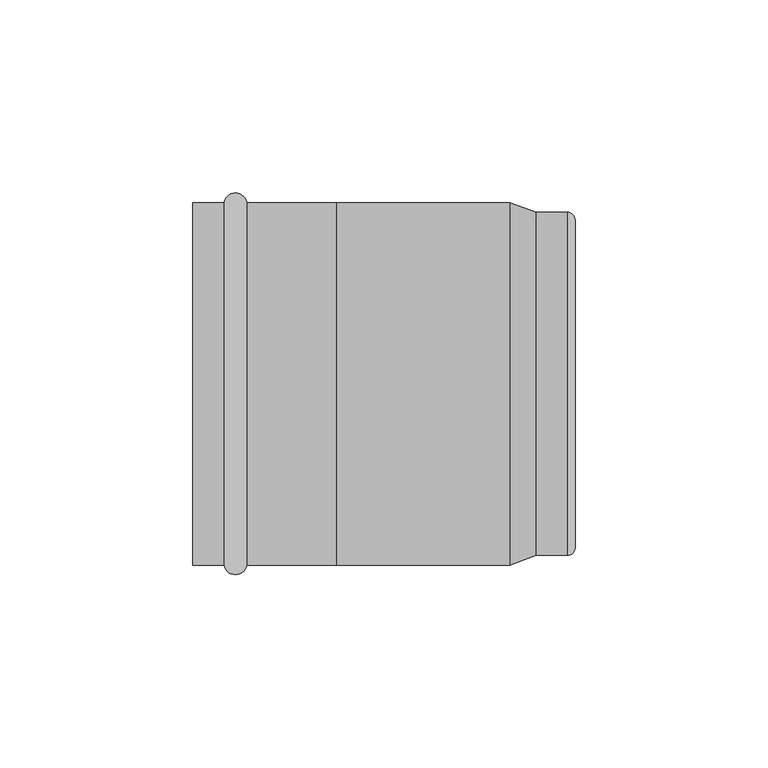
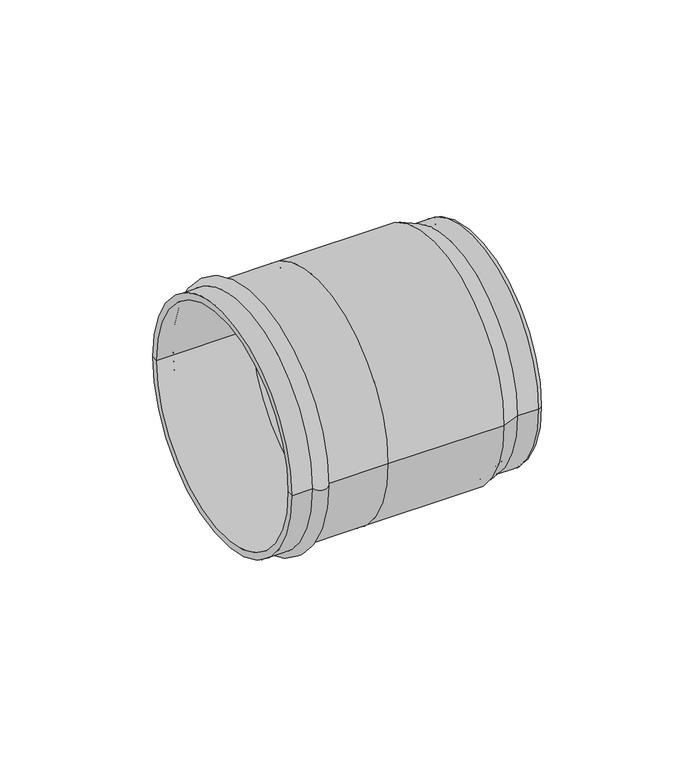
"""IFC4 building model written with IfcOpenShell, lengths in millimetres: pipe fitting geometry, VALTEC_VTi.961.I_Заглушка_нержавеющая : VTi.961.I."""

import ifcopenshell
import ifcopenshell.guid

model = None  # the IFC model being written
_history = None  # IfcOwnerHistory: only IFC2X3 demands one
_inside = {}  # id of a spatial element -> (the spatial element, [elements in it])
_under = {}  # id of a project, library or spatial element -> (it, [spatial elements below it])
_declared = {}  # id of a project -> (the project, [libraries it declares])
_typed = {}  # id of a type object -> (the type object, [elements of that type])
_made_of = {}  # id of a material, layer set ... -> (it, [elements and type objects made of it])


def new_model(schema):
    """Start an empty IFC model of exactly this schema.

    Asked for "IFC4X3", IfcOpenShell would pick the latest addendum, in which some entities
    have other attributes; the version numbers below select the first issue.
    IFC2X3 requires an IfcOwnerHistory on every rooted entity: one is made here for all.
    """
    global model, _history
    if schema == "IFC4X3":
        model = ifcopenshell.file(schema_version=(4, 3, 0, 0))
    else:
        model = ifcopenshell.file(schema=schema)
    _inside.clear()
    _under.clear()
    _declared.clear()
    _typed.clear()
    _made_of.clear()
    _history = None
    if model.schema == "IFC2X3":
        org = make("IfcOrganization", Name="unknown")
        user = make(
            "IfcPersonAndOrganization",
            ThePerson=make("IfcPerson", FamilyName="unknown"),
            TheOrganization=org,
        )
        app = make(
            "IfcApplication",
            ApplicationDeveloper=org,
            Version="unknown",
            ApplicationFullName="unknown",
            ApplicationIdentifier="unknown",
        )
        _history = make(
            "IfcOwnerHistory",
            OwningUser=user,
            OwningApplication=app,
            ChangeAction="ADDED",
            CreationDate=0,
        )
    return model


def make(cls, **values):
    """One entity of the class cls with the attributes given. An attribute that is None is left unset."""
    return model.create_entity(
        cls, **{name: value for name, value in values.items() if value is not None}
    )


def rooted(cls, **values):
    """An entity with a GlobalId (a new one), such as an element, a storey or a relation."""
    return make(cls, GlobalId=ifcopenshell.guid.new(), OwnerHistory=_history, **values)


def si_unit(unit_type, name, prefix=None):
    """IfcSIUnit, for example si_unit("LENGTHUNIT", "METRE", prefix="MILLI")."""
    return make("IfcSIUnit", UnitType=unit_type, Prefix=prefix, Name=name)


def assignment(units):
    """IfcUnitAssignment: the units of a project."""
    return None if units is None else make("IfcUnitAssignment", Units=units)


def point(xyz):
    """IfcCartesianPoint."""
    return None if xyz is None else make("IfcCartesianPoint", Coordinates=xyz)


def direction(xyz):
    """IfcDirection."""
    return None if xyz is None else make("IfcDirection", DirectionRatios=xyz)


def frame(location, z_axis=None, x_axis=None):
    """IfcAxis2Placement3D, a coordinate frame: its origin and axes. An axis left out is left unset."""
    return make(
        "IfcAxis2Placement3D",
        Location=point(location),
        Axis=direction(z_axis),
        RefDirection=direction(x_axis),
    )


def origin():
    """The frame at (0, 0, 0) with its axes left unset."""
    return frame((0.0, 0.0, 0.0))


def place(relative_to, where):
    """IfcLocalPlacement: puts the frame where relative to a parent placement (None: the world)."""
    return make(
        "IfcLocalPlacement", PlacementRelTo=relative_to, RelativePlacement=where
    )


def context(
    kind, dimensions, precision=None, world=None, true_north=None, identifier=None
):
    """IfcGeometricRepresentationContext, for example the 3D "Model" context."""
    return make(
        "IfcGeometricRepresentationContext",
        ContextIdentifier=identifier,
        ContextType=kind,
        CoordinateSpaceDimension=dimensions,
        Precision=precision,
        WorldCoordinateSystem=world,
        TrueNorth=true_north,
    )


def project(units=None, contexts=None):
    """IfcProject with its units and contexts."""
    return rooted(
        "IfcProject",
        Name="project",
        RepresentationContexts=contexts,
        UnitsInContext=assignment(units),
    )


def spatial(cls, under=None, at=None, **own):
    """A site, building, storey or space (cls), placed at a placement, below another one or the project."""
    s = rooted(cls, ObjectPlacement=at, **own)
    if under is not None:
        _under.setdefault(under.id(), (under, []))[1].append(s)
    return s


def polyline(points):
    """IfcPolyline through the points."""
    return make("IfcPolyline", Points=[point(p) for p in points])


def circle_curve(where, radius):
    """IfcCircle in the frame where."""
    return make("IfcCircle", Position=where, Radius=radius)


def ellipse_curve(where, semi_axis1, semi_axis2):
    """IfcEllipse in the frame where."""
    return make(
        "IfcEllipse", Position=where, SemiAxis1=semi_axis1, SemiAxis2=semi_axis2
    )


def trimmed(basis, trim1, trim2, sense, master):
    """IfcTrimmedCurve: the piece of a basis curve between two trims."""
    return make(
        "IfcTrimmedCurve",
        BasisCurve=basis,
        Trim1=trim1,
        Trim2=trim2,
        SenseAgreement=sense,
        MasterRepresentation=master,
    )


def shape(context_of_items, identifier, shape_type, items):
    """IfcShapeRepresentation: the items that make up one representation, for example the "Body"."""
    return make(
        "IfcShapeRepresentation",
        ContextOfItems=context_of_items,
        RepresentationIdentifier=identifier,
        RepresentationType=shape_type,
        Items=items,
    )


def source(mapping_origin, context_of_items, identifier, shape_type, items):
    """IfcRepresentationMap: a shape defined once, which mapped items show again and again."""
    return make(
        "IfcRepresentationMap",
        MappingOrigin=mapping_origin,
        MappedRepresentation=shape(context_of_items, identifier, shape_type, items),
    )


def transform(
    local_origin,
    x_axis=None,
    y_axis=None,
    z_axis=None,
    scale=None,
    scale2=None,
    scale3=None,
    uniform=True,
):
    """IfcCartesianTransformationOperator3D, or its non-uniform kind. x_axis, y_axis, z_axis: its Axis1, 2, 3."""
    if uniform:
        return make(
            "IfcCartesianTransformationOperator3D",
            Axis1=direction(x_axis),
            Axis2=direction(y_axis),
            LocalOrigin=point(local_origin),
            Scale=scale,
            Axis3=direction(z_axis),
        )
    return make(
        "IfcCartesianTransformationOperator3DnonUniform",
        Axis1=direction(x_axis),
        Axis2=direction(y_axis),
        LocalOrigin=point(local_origin),
        Scale=scale,
        Axis3=direction(z_axis),
        Scale2=scale2,
        Scale3=scale3,
    )


def mapped(mapping_source, mapping_target):
    """IfcMappedItem: shows the shape of a source again, moved by a transform."""
    return make(
        "IfcMappedItem", MappingSource=mapping_source, MappingTarget=mapping_target
    )


def made_of(thing, what):
    """Note that an element or type object is made of a material, layer set ...; save() writes the relation."""
    if what is not None:
        _made_of.setdefault(what.id(), (what, []))[1].append(thing)
    return thing


def element(
    cls,
    number,
    at=None,
    inside=None,
    cuts=None,
    type_object=None,
    material=None,
    context=None,
    identifier="Body",
    shape_type=None,
    held_by="IfcProductDefinitionShape",
    body=None,
    shapes=None,
    **own,
):
    """One element of the class cls, such as IfcWall. Its Tag is "e" and its number.

    at: its placement. inside: the storey or other place that contains it. cuts: it is an
    opening in that element (IfcRelVoidsElement). A single representation is given by context,
    identifier, shape_type and body (its items); several are given by shapes. held_by: the class
    of the entity that holds the representations. save() writes the other relations.
    """
    e = rooted(cls, Tag="e%d" % number, ObjectPlacement=at, **own)
    if body is not None:
        shapes = [shape(context, identifier, shape_type, body)]
    if shapes is not None:
        e.Representation = make(held_by, Representations=shapes)
    if inside is not None:
        _inside.setdefault(inside.id(), (inside, []))[1].append(e)
    if cuts is not None:
        rooted(
            "IfcRelVoidsElement", RelatingBuildingElement=cuts, RelatedOpeningElement=e
        )
    if type_object is not None:
        _typed.setdefault(type_object.id(), (type_object, []))[1].append(e)
    return made_of(e, material)


def aggregate(whole, parts):
    """IfcRelAggregates: a whole, such as a stair, and the parts it consists of."""
    return rooted("IfcRelAggregates", RelatingObject=whole, RelatedObjects=parts)


def save(model, path):
    """Write the relations noted so far, then the file.

    IfcRelAggregates (storeys below a building ...), IfcRelContainedInSpatialStructure (elements
    in a storey), IfcRelDefinesByType, IfcRelAssociatesMaterial and IfcRelDeclares: one each for
    every whole, place, type object, material and project.
    """
    for whole, parts in _under.values():
        aggregate(whole, parts)
    for where, things in _inside.values():
        rooted(
            "IfcRelContainedInSpatialStructure",
            RelatedElements=things,
            RelatingStructure=where,
        )
    for kind, things in _typed.values():
        rooted("IfcRelDefinesByType", RelatedObjects=things, RelatingType=kind)
    for what, things in _made_of.values():
        rooted("IfcRelAssociatesMaterial", RelatedObjects=things, RelatingMaterial=what)
    for by, libraries in _declared.values():
        rooted("IfcRelDeclares", RelatingContext=by, RelatedDefinitions=libraries)
    model.write(path)


def plane_surface(at):
    """IfcPlane: the flat surface through the origin of the frame at, square to its z axis."""
    return make("IfcPlane", Position=at)


def cylinder_surface(at, radius):
    """IfcCylindricalSurface: all points at the distance radius from the z axis of the frame at."""
    return make("IfcCylindricalSurface", Position=at, Radius=radius)


def revolved_surface(curve, axis_point, axis_direction):
    """IfcSurfaceOfRevolution: the curve turned about the line through axis_point along axis_direction."""
    return make(
        "IfcSurfaceOfRevolution",
        SweptCurve=make("IfcArbitraryOpenProfileDef", ProfileType="CURVE", Curve=curve),
        AxisPosition=make("IfcAxis1Placement", Location=point(axis_point), Axis=direction(axis_direction)),
    )


def advanced_brep(points, edges, surfaces, faces):
    """IfcAdvancedBrep: a solid bounded by faces that lie on surfaces and meet in shared edges.

    An edge is (start, end): straight between two places in points (the first is 0);
    or (start, end, curve); or (start, end, curve, False) where it runs against its curve.
    A face is (place in surfaces, loops), or (place, loops, False) where it looks against
    its surface's normal. A loop lists edges by number (the first is 1), with a minus sign
    where the edge is run from its end to its start. The first loop is the outer one.
    """
    corners = [point(p) for p in points]
    vertices = [make("IfcVertexPoint", VertexGeometry=c) for c in corners]
    made = []
    for start, end, *more in edges:
        made.append(
            make(
                "IfcEdgeCurve",
                EdgeStart=vertices[start],
                EdgeEnd=vertices[end],
                EdgeGeometry=more[0] if more else make("IfcPolyline", Points=[corners[start], corners[end]]),
                SameSense=more[1] if len(more) > 1 else True,
            )
        )
    hull = []
    for where, loops, *sense in faces:
        bounds = []
        for j, loop in enumerate(loops):
            ring = [make("IfcOrientedEdge", EdgeElement=made[abs(k) - 1], Orientation=k > 0) for k in loop]
            bounds.append(
                make(
                    "IfcFaceOuterBound" if j == 0 else "IfcFaceBound",
                    Bound=make("IfcEdgeLoop", EdgeList=ring),
                    Orientation=True,
                )
            )
        hull.append(make("IfcAdvancedFace", Bounds=bounds, FaceSurface=surfaces[where], SameSense=sense[0] if sense else True))
    return make("IfcAdvancedBrep", Outer=make("IfcClosedShell", CfsFaces=hull))


def pipe_fitting_133cc174(model_context):
    return source(origin(), model_context, "Body", "AdvancedBrep", [
        advanced_brep(
        [(8.0419601, -46.95, 0.0), (8.0419601, 46.95, 0.0), (13.9580399, 46.95, 0.0), (13.9580399, -46.95, 0.0), (0.0, -46.95, 0.0), (0.0, 46.95, 0.0), (0.0, -44.45, 0.0), (0.0, 44.45, 0.0), (37.125, -44.45, 0.0), (37.125, 44.45, 0.0), (37.125, -46.95, 0.0), (37.125, 46.95, 0.0)],
        [
            (0, 1, circle_curve(frame((8.0419601, 0.0, 0.0), z_axis=(1.0, 0.0, 0.0), x_axis=(0.0, 1.0, 0.0)), 46.95)),
            (1, 2, circle_curve(frame((11.0, 46.45, 0.0), z_axis=(0.0, 0.0, -1.0), x_axis=(1.0, 0.0, 0.0)), 3.0)),
            (2, 3, circle_curve(frame((13.9580399, 0.0, 0.0), z_axis=(-1.0, 0.0, 0.0), x_axis=(0.0, 1.0, 0.0)), 46.95)),
            (3, 0, circle_curve(frame((11.0, -46.45, 0.0), z_axis=(0.0, 0.0, -1.0), x_axis=(1.0, 0.0, 0.0)), 3.0)),
            (1, 0, circle_curve(frame((8.0419601, 0.0, 0.0), z_axis=(1.0, 0.0, 0.0), x_axis=(0.0, 1.0, 0.0)), 46.95)),
            (3, 2, circle_curve(frame((13.9580399, 0.0, 0.0), z_axis=(-1.0, 0.0, 0.0), x_axis=(0.0, 1.0, 0.0)), 46.95)),
            (4, 5, circle_curve(frame((0.0, 0.0, 0.0), z_axis=(1.0, 0.0, 0.0), x_axis=(0.0, 1.0, 0.0)), 46.95)),
            (5, 1),
            (0, 4),
            (5, 4, circle_curve(frame((0.0, 0.0, 0.0), z_axis=(1.0, 0.0, 0.0), x_axis=(0.0, 1.0, 0.0)), 46.95)),
            (6, 7, circle_curve(frame((0.0, 0.0, 0.0), z_axis=(1.0, 0.0, 0.0), x_axis=(0.0, 1.0, 0.0)), 44.45)),
            (7, 5),
            (4, 6),
            (7, 6, circle_curve(frame((0.0, 0.0, 0.0), z_axis=(1.0, 0.0, 0.0), x_axis=(0.0, 1.0, 0.0)), 44.45)),
            (8, 9, circle_curve(frame((37.125, 0.0, 0.0), z_axis=(1.0, 0.0, 0.0), x_axis=(0.0, 1.0, 0.0)), 44.45)),
            (9, 7),
            (6, 8),
            (9, 8, circle_curve(frame((37.125, 0.0, 0.0), z_axis=(1.0, 0.0, 0.0), x_axis=(0.0, 1.0, 0.0)), 44.45)),
            (10, 11, circle_curve(frame((37.125, 0.0, 0.0), z_axis=(1.0, 0.0, 0.0), x_axis=(0.0, 1.0, 0.0)), 46.95)),
            (11, 9),
            (8, 10),
            (11, 10, circle_curve(frame((37.125, 0.0, 0.0), z_axis=(1.0, 0.0, 0.0), x_axis=(0.0, 1.0, 0.0)), 46.95)),
            (2, 11),
            (10, 3),
        ],
        [
            revolved_surface(trimmed(ellipse_curve(frame((11.0, 46.45, 0.0), z_axis=(0.0, 0.0, 1.0), x_axis=(1.0, 0.0, 0.0)), 3.0, 3.0), [point((13.9580399, 46.95, 0.0))], [point((8.0419601, 46.95, 0.0))], True, "CARTESIAN"), (-3.5364426, 0.0, 0.0), (-1.0, 0.0, 0.0)),
            cylinder_surface(frame((-3.5364426, 0.0, 0.0), z_axis=(-1.0, 0.0, 0.0), x_axis=(0.0, 1.0, 0.0)), 46.95),
            plane_surface(frame((0.0, 0.0, 0.0), z_axis=(-1.0, 0.0, 0.0), x_axis=(0.0, 1.0, 0.0))),
            revolved_surface(polyline([(0.0, 44.45, 0.0), (37.125, 44.45, 0.0)]), (-3.5364426, 0.0, 0.0), (-1.0, 0.0, 0.0)),
            plane_surface(frame((37.125, 0.0, 0.0), z_axis=(1.0, 0.0, 0.0), x_axis=(0.0, 1.0, 0.0))),
        ],
        [
            (0, [[1, 2, 3, 4]]),
            (0, [[5, -4, 6, -2]]),
            (1, [[7, 8, -1, 9]]),
            (1, [[10, -9, -5, -8]]),
            (2, [[11, 12, -7, 13]]),
            (2, [[14, -13, -10, -12]]),
            (3, [[15, 16, -11, 17]]),
            (3, [[18, -17, -14, -16]]),
            (4, [[19, 20, -15, 21]]),
            (4, [[22, -21, -18, -20]]),
            (1, [[-3, 23, -19, 24]]),
            (1, [[-6, -24, -22, -23]]),
        ],
    ),
        advanced_brep(
        [(37.125, -46.95, 0.0), (37.125, 46.95, 0.0), (82.1313065, 46.95, 0.0), (82.1313065, -46.95, 0.0), (82.1313065, -44.45, 0.0), (82.1313065, 44.45, 0.0), (37.125, 44.45, 0.0), (37.125, -44.45, 0.0), (96.5, -41.95, 0.0), (96.5, 41.95, 0.0), (89.0, 41.95, 0.0), (89.0, -41.95, 0.0), (96.5, 0.0, 0.0), (99.0, -42.45, 0.0), (99.0, 42.45, 0.0), (99.0, 0.0, 0.0), (89.0, -44.45, 0.0), (89.0, 44.45, 0.0), (97.0, 44.45, 0.0), (97.0, -44.45, 0.0)],
        [
            (0, 1, circle_curve(frame((37.125, 0.0, 0.0), z_axis=(1.0, 0.0, 0.0), x_axis=(0.0, 1.0, 0.0)), 46.95)),
            (1, 2),
            (2, 3, circle_curve(frame((82.1313065, 0.0, 0.0), z_axis=(-1.0, 0.0, 0.0), x_axis=(0.0, 1.0, 0.0)), 46.95)),
            (3, 0),
            (1, 0, circle_curve(frame((37.125, 0.0, 0.0), z_axis=(1.0, 0.0, 0.0), x_axis=(0.0, 1.0, 0.0)), 46.95)),
            (3, 2, circle_curve(frame((82.1313065, 0.0, 0.0), z_axis=(-1.0, 0.0, 0.0), x_axis=(0.0, 1.0, 0.0)), 46.95)),
            (4, 5, circle_curve(frame((82.1313065, 0.0, 0.0), z_axis=(1.0, 0.0, 0.0), x_axis=(0.0, 1.0, 0.0)), 44.45)),
            (5, 6),
            (6, 7, circle_curve(frame((37.125, 0.0, 0.0), z_axis=(-1.0, 0.0, 0.0), x_axis=(0.0, 1.0, 0.0)), 44.45)),
            (7, 4),
            (5, 4, circle_curve(frame((82.1313065, 0.0, 0.0), z_axis=(1.0, 0.0, 0.0), x_axis=(0.0, 1.0, 0.0)), 44.45)),
            (7, 6, circle_curve(frame((37.125, 0.0, 0.0), z_axis=(-1.0, 0.0, 0.0), x_axis=(0.0, 1.0, 0.0)), 44.45)),
            (6, 1),
            (0, 7),
            (8, 9, circle_curve(frame((96.5, 0.0, 0.0), z_axis=(1.0, 0.0, 0.0), x_axis=(0.0, 1.0, 0.0)), 41.95)),
            (9, 10),
            (10, 11, circle_curve(frame((89.0, 0.0, 0.0), z_axis=(-1.0, 0.0, 0.0), x_axis=(0.0, 1.0, 0.0)), 41.95)),
            (11, 8),
            (9, 8, circle_curve(frame((96.5, 0.0, 0.0), z_axis=(1.0, 0.0, 0.0), x_axis=(0.0, 1.0, 0.0)), 41.95)),
            (11, 10, circle_curve(frame((89.0, 0.0, 0.0), z_axis=(-1.0, 0.0, 0.0), x_axis=(0.0, 1.0, 0.0)), 41.95)),
            (12, 9),
            (8, 12),
            (13, 14, circle_curve(frame((99.0, 0.0, 0.0), z_axis=(1.0, 0.0, 0.0), x_axis=(0.0, 1.0, 0.0)), 42.45)),
            (14, 15),
            (15, 13),
            (14, 13, circle_curve(frame((99.0, 0.0, 0.0), z_axis=(1.0, 0.0, 0.0), x_axis=(0.0, 1.0, 0.0)), 42.45)),
            (16, 17, circle_curve(frame((89.0, 0.0, 0.0), z_axis=(1.0, 0.0, 0.0), x_axis=(0.0, 1.0, 0.0)), 44.45)),
            (17, 18),
            (18, 19, circle_curve(frame((97.0, 0.0, 0.0), z_axis=(-1.0, 0.0, 0.0), x_axis=(0.0, 1.0, 0.0)), 44.45)),
            (19, 16),
            (17, 16, circle_curve(frame((89.0, 0.0, 0.0), z_axis=(1.0, 0.0, 0.0), x_axis=(0.0, 1.0, 0.0)), 44.45)),
            (19, 18, circle_curve(frame((97.0, 0.0, 0.0), z_axis=(-1.0, 0.0, 0.0), x_axis=(0.0, 1.0, 0.0)), 44.45)),
            (2, 17),
            (16, 3),
            (10, 5),
            (4, 11),
            (18, 14, circle_curve(frame((97.0, 42.45, 0.0), z_axis=(0.0, 0.0, -1.0), x_axis=(1.0, 0.0, 0.0)), 2.0)),
            (13, 19, circle_curve(frame((97.0, -42.45, 0.0), z_axis=(0.0, 0.0, -1.0), x_axis=(1.0, 0.0, 0.0)), 2.0)),
        ],
        [
            cylinder_surface(frame((-40.0167378, 0.0, 0.0), z_axis=(-1.0, 0.0, 0.0), x_axis=(0.0, 1.0, 0.0)), 46.95),
            revolved_surface(polyline([(37.125, 44.45, 0.0), (82.1313065, 44.45, 0.0)]), (-40.0167378, 0.0, 0.0), (-1.0, 0.0, 0.0)),
            plane_surface(frame((37.125, 0.0, 0.0), z_axis=(-1.0, 0.0, 0.0), x_axis=(0.0, 1.0, 0.0))),
            revolved_surface(polyline([(88.99999999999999, 41.95, 0.0), (96.49999999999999, 41.95, 0.0)]), (-40.0167378, 0.0, 0.0), (-1.0, 0.0, 0.0)),
            plane_surface(frame((96.5, 0.0, 0.0), z_axis=(-1.0, 0.0, 0.0), x_axis=(0.0, 1.0, 0.0))),
            plane_surface(frame((99.0, 0.0, 0.0), z_axis=(1.0, 0.0, 0.0), x_axis=(0.0, 1.0, 0.0))),
            cylinder_surface(frame((-40.0167378, 0.0, 0.0), z_axis=(-1.0, 0.0, 0.0), x_axis=(0.0, 1.0, 0.0)), 44.45),
            revolved_surface(polyline([(89.0, 44.45, 0.0), (82.1313065, 46.95, 0.0)]), (-40.0167378, 0.0, 0.0), (-1.0, 0.0, 0.0)),
            revolved_surface(polyline([(82.1313065, 44.45, 0.0), (89.0, 41.95, 0.0)]), (-40.0167378, 0.0, 0.0), (-1.0, 0.0, 0.0)),
            revolved_surface(trimmed(ellipse_curve(frame((97.0, 42.45, 0.0), z_axis=(0.0, 0.0, 1.0), x_axis=(1.0, 0.0, 0.0)), 2.0, 2.0), [point((99.0, 42.45, 0.0))], [point((97.0, 44.45, 0.0))], True, "CARTESIAN"), (-40.0167378, 0.0, 0.0), (-1.0, 0.0, 0.0)),
        ],
        [
            (0, [[1, 2, 3, 4]]),
            (0, [[5, -4, 6, -2]]),
            (1, [[7, 8, 9, 10]]),
            (1, [[11, -10, 12, -8]]),
            (2, [[-9, 13, -1, 14]]),
            (2, [[-12, -14, -5, -13]]),
            (3, [[15, 16, 17, 18]]),
            (3, [[19, -18, 20, -16]]),
            (4, [[21, -15, 22]]),
            (4, [[-22, -19, -21]]),
            (5, [[23, 24, 25]]),
            (5, [[26, -25, -24]]),
            (6, [[27, 28, 29, 30]]),
            (6, [[31, -30, 32, -28]]),
            (7, [[-3, 33, -27, 34]]),
            (7, [[-6, -34, -31, -33]]),
            (8, [[-17, 35, -7, 36]]),
            (8, [[-20, -36, -11, -35]]),
            (9, [[-29, 37, -23, 38]]),
            (9, [[-32, -38, -26, -37]]),
        ],
    ),
    ])


if __name__ == "__main__":
    model = new_model("IFC4")
    model_context = context("Model", 3, world=origin())
    ifc_project = project(units=[si_unit("LENGTHUNIT", "METRE", prefix="MILLI")], contexts=[model_context])
    site = spatial("IfcSite", under=ifc_project)
    building = spatial("IfcBuilding", under=site)
    placement = place(None, origin())
    pipe_fitting_shape = pipe_fitting_133cc174(model_context)
    element("IfcPipeFitting", 1, ObjectType="VALTEC_VTi.961.I_Заглушка_нержавеющая : VTi.961.I", at=placement, inside=building, context=model_context, shape_type="MappedRepresentation", body=[
        mapped(pipe_fitting_shape, transform((0.0, 0.0, 0.0), x_axis=(1.0, 0.0, 0.0), y_axis=(0.0, 1.0, 0.0), z_axis=(0.0, 0.0, 1.0))),
    ])
    save(model, "model.ifc")
